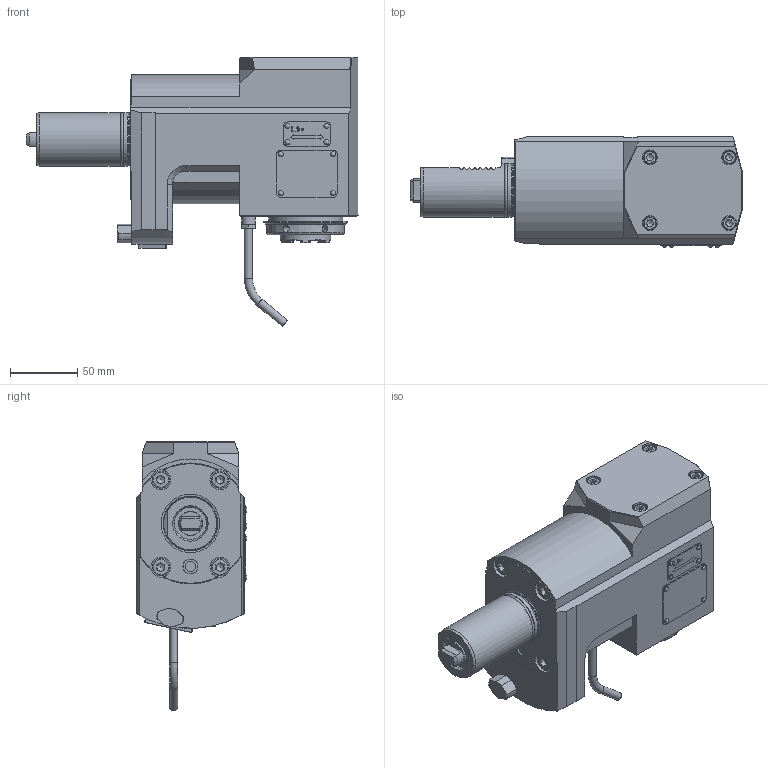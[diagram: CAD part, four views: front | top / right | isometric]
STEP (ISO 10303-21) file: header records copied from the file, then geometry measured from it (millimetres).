
FILE_DESCRIPTION(/* description */ (''),/* implementation_level */ '2;1');
FILE_NAME(/* name */ '124864',/* time_stamp */ '2020-01-14T13:35:20+01:00',/* author */ (''),/* organization */ (''),/* preprocessor_version */ 'ST-DEVELOPER v16.5',/* originating_system */ 'HiCAD 2017 2201.0 Build 268',/* authorisation */ '');
FILE_SCHEMA (('AUTOMOTIVE_DESIGN { 1 0 10303 214 1 1 1 1 }'));
Length unit declared in the file: millimetre
Products named in the file (8): Root; Teil; ABCDEFGHIJKLMNOPQRSTUVWXYZ[\]^_`ABCDEFGHIJKLMNOP猀弅Ɋ; GEWINDE; DIN 76-M8
Assembly tree (7 placements, depth 3):
  Root
    Teil
      ABCDEFGHIJKLMNOPQRSTUVWXYZ[\]^_`ABCDEFGHIJKLMNOP猀弅Ɋ
      ABCDEFGHIJKLMNOPQRSTUVWXYZ[\]^_`ABCDEFGHIJKLMNOP猀弅Ɋ
      GEWINDE
      GEWINDE
      GEWINDE
      DIN 76-M8
Bounding box: 247 x 82.3 x 200.17 mm (x, y, z)
Volume: 1464640.4 mm3; surface area: 127274.7 mm2
Topology: 8 solids, 21 shells, 733 faces, 1828 edges, 1184 vertices
Faces by surface type: plane 470, cylinder 177, cone 44, torus 32, sphere 8, bspline 2
Full cylindrical faces by diameter (mm): 2 x8, 2.2 x8, 3.141 x1, 4 x3, 4.019 x2, 5 x2, 5.1 x6, 6 x3, 6.8 x1, 7.5 x1, 7.65 x1, 8 x2, 8.5 x2, 8.773 x2, 9 x4, 10 x7, 11 x4, 11.01 x1, 11.1 x1, 13 x4, 15 x4, 18 x1, 23.5 x1, 24 x2, 27 x2, 29.4 x1, 36.7 x1, 37.5 x1, 38 x1, 38.16 x2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
Entity records: 44914 total; most frequent: CARTESIAN_POINT 9527, PRESENTATION_STYLE_ASSIGNMENT 3609, OVER_RIDING_STYLED_ITEM 3602, DIRECTION 3474, COLOUR_RGB 3235, DRAUGHTING_PRE_DEFINED_CURVE_FONT 3230, CURVE_STYLE 3230, ORIENTED_EDGE 3230
